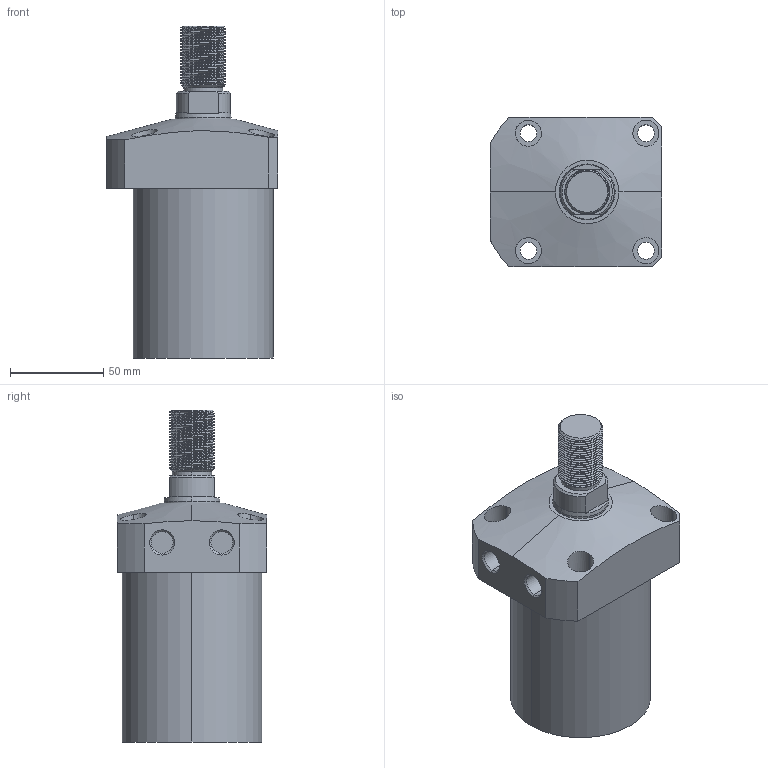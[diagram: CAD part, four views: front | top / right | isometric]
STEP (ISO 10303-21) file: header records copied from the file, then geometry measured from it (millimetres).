
FILE_DESCRIPTION (( 'STEP AP203' ), '1' );
FILE_NAME ('CLL-075CT-075.STEP', '2020-01-08T11:58:19', ( '' ), ( '' ), 'SwSTEP 2.0', 'SolidWorks 2015', '' );
FILE_SCHEMA (( 'CONFIG_CONTROL_DESIGN' ));
Length unit declared in the file: millimetre
Products named in the file (1): CLL-075CT-075
Bounding box: 92 x 80 x 178 mm (x, y, z)
Volume: 645341.5 mm3; surface area: 55722.1 mm2
Topology: 1 solids, 1 shells, 118 faces, 305 edges, 200 vertices
Faces by surface type: cylinder 77, plane 23, cone 16, bspline 2
Entity records: 6492 total; most frequent: CARTESIAN_POINT 3760, ORIENTED_EDGE 610, DIRECTION 502, EDGE_CURVE 305, VERTEX_POINT 200, AXIS2_PLACEMENT_3D 197, EDGE_LOOP 137, FACE_OUTER_BOUND 118
